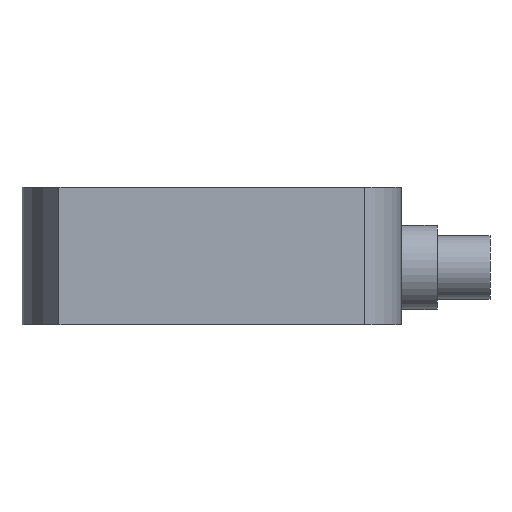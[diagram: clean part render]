
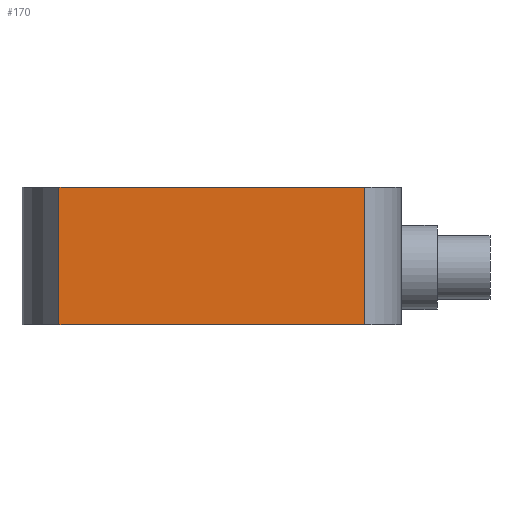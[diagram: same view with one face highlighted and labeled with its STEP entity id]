
A CAD part, left-side view. The second image highlights one B-rep face of the part: STEP entity #170.
In plain terms, the highlighted planar face has unit normal (-1, 0, 0) as drawn and (0, 0, 1) by its records, which use the part's own axes.
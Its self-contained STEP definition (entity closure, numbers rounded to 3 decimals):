
#170 = ADVANCED_FACE( '', ( #213 ), #214, .F. );
#213 = FACE_OUTER_BOUND( '', #320, .T. );
#214 = PLANE( '', #321 );
#320 = EDGE_LOOP( '', ( #431, #432, #433, #434 ) );
#321 = AXIS2_PLACEMENT_3D( '', #435, #436, #437 );
#431 = ORIENTED_EDGE( '', *, *, #696, .T. );
#432 = ORIENTED_EDGE( '', *, *, #697, .F. );
#433 = ORIENTED_EDGE( '', *, *, #698, .F. );
#434 = ORIENTED_EDGE( '', *, *, #693, .T. );
#435 = CARTESIAN_POINT( '', ( 6.5, 32.49, 26. ) );
#436 = DIRECTION( '', ( 0., 0., -1. ) );
#437 = DIRECTION( '', ( -1., 0., 0. ) );
#693 = EDGE_CURVE( '', #769, #767, #770, .T. );
#696 = EDGE_CURVE( '', #767, #774, #775, .T. );
#697 = EDGE_CURVE( '', #776, #774, #777, .T. );
#698 = EDGE_CURVE( '', #769, #776, #778, .T. );
#767 = VERTEX_POINT( '', #897 );
#769 = VERTEX_POINT( '', #899 );
#770 = LINE( '', #900, #901 );
#774 = VERTEX_POINT( '', #906 );
#775 = LINE( '', #907, #908 );
#776 = VERTEX_POINT( '', #909 );
#777 = LINE( '', #910, #911 );
#778 = LINE( '', #912, #913 );
#897 = CARTESIAN_POINT( '', ( -6.5, 32.49, 26. ) );
#899 = CARTESIAN_POINT( '', ( 6.5, 32.49, 26. ) );
#900 = CARTESIAN_POINT( '', ( 6.5, 32.49, 26. ) );
#901 = VECTOR( '', #1075, 1000. );
#906 = CARTESIAN_POINT( '', ( -6.5, 3.5, 26. ) );
#907 = CARTESIAN_POINT( '', ( -6.5, 32.49, 26. ) );
#908 = VECTOR( '', #1080, 1000. );
#909 = CARTESIAN_POINT( '', ( 6.5, 3.5, 26. ) );
#910 = CARTESIAN_POINT( '', ( 6.5, 3.5, 26. ) );
#911 = VECTOR( '', #1081, 1000. );
#912 = CARTESIAN_POINT( '', ( 6.5, 32.49, 26. ) );
#913 = VECTOR( '', #1082, 1000. );
#1075 = DIRECTION( '', ( -1., 0., 0. ) );
#1080 = DIRECTION( '', ( 0., -1., 0. ) );
#1081 = DIRECTION( '', ( -1., 0., 0. ) );
#1082 = DIRECTION( '', ( 0., -1., 0. ) );
